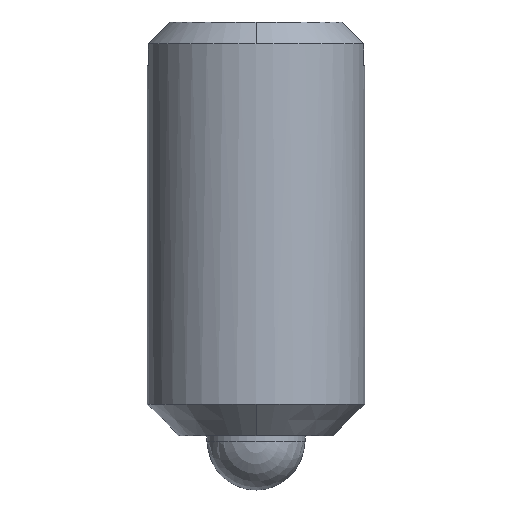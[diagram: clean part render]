
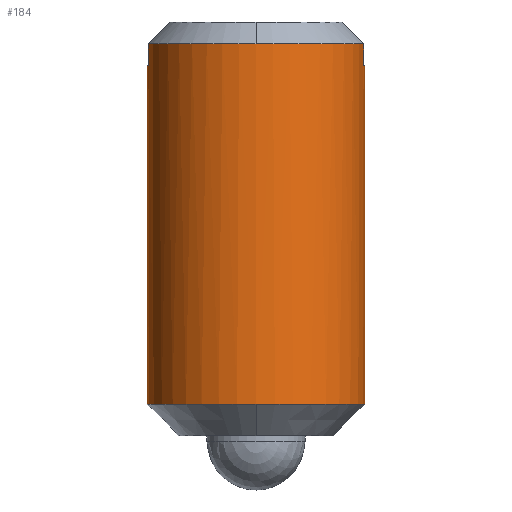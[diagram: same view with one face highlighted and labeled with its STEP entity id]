
A CAD part, front view. The second image highlights one B-rep face of the part: STEP entity #184.
In plain terms, the highlighted cylindrical face has radius 5 mm (diameter 10 mm), a partial arc.
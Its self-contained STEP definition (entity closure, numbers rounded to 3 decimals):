
#3 = DIRECTION ( 'NONE',  ( 0., 0., 1. ) ) ;
#12 = ORIENTED_EDGE ( 'NONE', *, *, #538, .T. ) ;
#23 = CIRCLE ( 'NONE', #207, 5. ) ;
#29 = DIRECTION ( 'NONE',  ( 0., 0., 1. ) ) ;
#30 = EDGE_LOOP ( 'NONE', ( #328, #125, #72, #12, #34, #164, #367, #36, #144, #344 ) ) ;
#34 = ORIENTED_EDGE ( 'NONE', *, *, #492, .T. ) ;
#36 = ORIENTED_EDGE ( 'NONE', *, *, #44, .T. ) ;
#41 = DIRECTION ( 'NONE',  ( 0., 1., 0. ) ) ;
#43 = LINE ( 'NONE', #181, #423 ) ;
#44 = EDGE_CURVE ( 'NONE', #450, #561, #341, .T. ) ;
#47 = AXIS2_PLACEMENT_3D ( 'NONE', #154, #29, #460 ) ;
#54 = DIRECTION ( 'NONE',  ( 0., 0., -1. ) ) ;
#56 = CARTESIAN_POINT ( 'NONE',  ( -4.936, -0.8, 20.5 ) ) ;
#65 = EDGE_CURVE ( 'NONE', #186, #296, #522, .T. ) ;
#68 = AXIS2_PLACEMENT_3D ( 'NONE', #475, #3, #178 ) ;
#71 = LINE ( 'NONE', #165, #303 ) ;
#72 = ORIENTED_EDGE ( 'NONE', *, *, #65, .T. ) ;
#74 = VERTEX_POINT ( 'NONE', #220 ) ;
#91 = DIRECTION ( 'NONE',  ( 0., 0., -1. ) ) ;
#116 = VERTEX_POINT ( 'NONE', #393 ) ;
#117 = AXIS2_PLACEMENT_3D ( 'NONE', #504, #288, #467 ) ;
#125 = ORIENTED_EDGE ( 'NONE', *, *, #526, .F. ) ;
#131 = EDGE_CURVE ( 'NONE', #556, #453, #43, .T. ) ;
#140 = CARTESIAN_POINT ( 'NONE',  ( 5., 0., 19.5 ) ) ;
#141 = VECTOR ( 'NONE', #309, 1000. ) ;
#144 = ORIENTED_EDGE ( 'NONE', *, *, #518, .T. ) ;
#151 = CYLINDRICAL_SURFACE ( 'NONE', #552, 5. ) ;
#154 = CARTESIAN_POINT ( 'NONE',  ( 0., 0., 3.95 ) ) ;
#163 = EDGE_CURVE ( 'NONE', #450, #116, #503, .T. ) ;
#164 = ORIENTED_EDGE ( 'NONE', *, *, #352, .F. ) ;
#165 = CARTESIAN_POINT ( 'NONE',  ( -4.936, -0.8, 19.5 ) ) ;
#168 = CARTESIAN_POINT ( 'NONE',  ( 0., 0., 20.5 ) ) ;
#178 = DIRECTION ( 'NONE',  ( 1., 0., 0. ) ) ;
#181 = CARTESIAN_POINT ( 'NONE',  ( 5., 0., -4.5 ) ) ;
#184 = ADVANCED_FACE ( 'NONE', ( #279 ), #151, .T. ) ;
#186 = VERTEX_POINT ( 'NONE', #490 ) ;
#189 = DIRECTION ( 'NONE',  ( -1., 0., 0. ) ) ;
#192 = CARTESIAN_POINT ( 'NONE',  ( 0., 0., -4.5 ) ) ;
#200 = DIRECTION ( 'NONE',  ( 0., 0., 1. ) ) ;
#207 = AXIS2_PLACEMENT_3D ( 'NONE', #382, #253, #435 ) ;
#212 = VERTEX_POINT ( 'NONE', #410 ) ;
#214 = DIRECTION ( 'NONE',  ( 0., 0., 1. ) ) ;
#220 = CARTESIAN_POINT ( 'NONE',  ( 0., -5., 20.5 ) ) ;
#225 = CARTESIAN_POINT ( 'NONE',  ( 4.936, -0.8, 20.5 ) ) ;
#246 = VECTOR ( 'NONE', #214, 1000. ) ;
#253 = DIRECTION ( 'NONE',  ( 0., 0., 1. ) ) ;
#268 = VERTEX_POINT ( 'NONE', #56 ) ;
#273 = CIRCLE ( 'NONE', #355, 5. ) ;
#279 = FACE_OUTER_BOUND ( 'NONE', #30, .T. ) ;
#288 = DIRECTION ( 'NONE',  ( 0., 0., -1. ) ) ;
#296 = VERTEX_POINT ( 'NONE', #225 ) ;
#303 = VECTOR ( 'NONE', #200, 1000. ) ;
#305 = CIRCLE ( 'NONE', #337, 5. ) ;
#309 = DIRECTION ( 'NONE',  ( 0., 0., -1. ) ) ;
#328 = ORIENTED_EDGE ( 'NONE', *, *, #131, .F. ) ;
#337 = AXIS2_PLACEMENT_3D ( 'NONE', #168, #54, #41 ) ;
#341 = LINE ( 'NONE', #508, #141 ) ;
#344 = ORIENTED_EDGE ( 'NONE', *, *, #427, .T. ) ;
#352 = EDGE_CURVE ( 'NONE', #116, #268, #71, .T. ) ;
#355 = AXIS2_PLACEMENT_3D ( 'NONE', #426, #385, #464 ) ;
#361 = CARTESIAN_POINT ( 'NONE',  ( -5., 0., 3.95 ) ) ;
#366 = DIRECTION ( 'NONE',  ( 0., 0., -1. ) ) ;
#367 = ORIENTED_EDGE ( 'NONE', *, *, #163, .F. ) ;
#382 = CARTESIAN_POINT ( 'NONE',  ( 0., 0., 19.5 ) ) ;
#385 = DIRECTION ( 'NONE',  ( 0., 0., 1. ) ) ;
#393 = CARTESIAN_POINT ( 'NONE',  ( -4.936, -0.8, 19.5 ) ) ;
#396 = CARTESIAN_POINT ( 'NONE',  ( 4.936, -0.8, 19.5 ) ) ;
#410 = CARTESIAN_POINT ( 'NONE',  ( 0., -5., 3.95 ) ) ;
#420 = CARTESIAN_POINT ( 'NONE',  ( 5., 0., 3.95 ) ) ;
#423 = VECTOR ( 'NONE', #91, 1000. ) ;
#426 = CARTESIAN_POINT ( 'NONE',  ( 0., 0., 3.95 ) ) ;
#427 = EDGE_CURVE ( 'NONE', #212, #453, #273, .T. ) ;
#435 = DIRECTION ( 'NONE',  ( 1., 0., 0. ) ) ;
#444 = CIRCLE ( 'NONE', #47, 5. ) ;
#450 = VERTEX_POINT ( 'NONE', #548 ) ;
#453 = VERTEX_POINT ( 'NONE', #420 ) ;
#460 = DIRECTION ( 'NONE',  ( 0., -1., 0. ) ) ;
#464 = DIRECTION ( 'NONE',  ( 0., -1., 0. ) ) ;
#467 = DIRECTION ( 'NONE',  ( 0., 1., 0. ) ) ;
#475 = CARTESIAN_POINT ( 'NONE',  ( 0., 0., 19.5 ) ) ;
#490 = CARTESIAN_POINT ( 'NONE',  ( 4.936, -0.8, 19.5 ) ) ;
#492 = EDGE_CURVE ( 'NONE', #74, #268, #532, .T. ) ;
#503 = CIRCLE ( 'NONE', #68, 5. ) ;
#504 = CARTESIAN_POINT ( 'NONE',  ( 0., 0., 20.5 ) ) ;
#508 = CARTESIAN_POINT ( 'NONE',  ( -5., 0., -4.5 ) ) ;
#518 = EDGE_CURVE ( 'NONE', #561, #212, #444, .T. ) ;
#522 = LINE ( 'NONE', #396, #246 ) ;
#526 = EDGE_CURVE ( 'NONE', #186, #556, #23, .T. ) ;
#532 = CIRCLE ( 'NONE', #117, 5. ) ;
#538 = EDGE_CURVE ( 'NONE', #296, #74, #305, .T. ) ;
#548 = CARTESIAN_POINT ( 'NONE',  ( -5., 0., 19.5 ) ) ;
#552 = AXIS2_PLACEMENT_3D ( 'NONE', #192, #366, #189 ) ;
#556 = VERTEX_POINT ( 'NONE', #140 ) ;
#561 = VERTEX_POINT ( 'NONE', #361 ) ;
